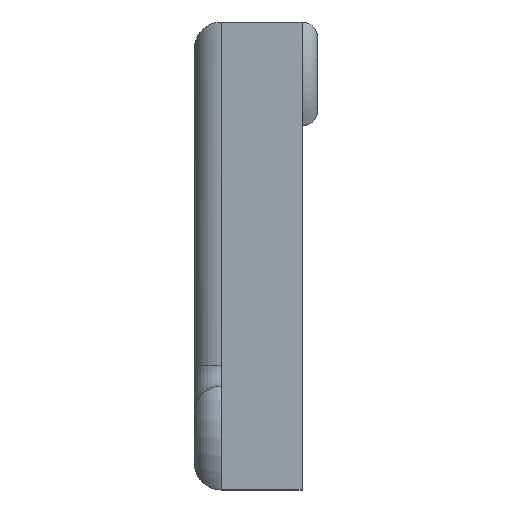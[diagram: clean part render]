
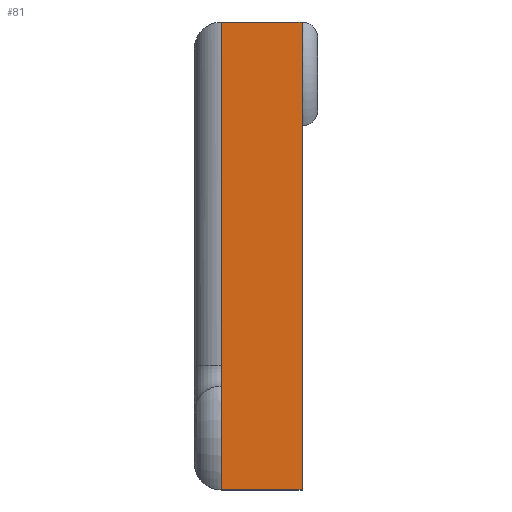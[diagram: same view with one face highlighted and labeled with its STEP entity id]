
A CAD part, left-side view. The second image highlights one B-rep face of the part: STEP entity #81.
In plain terms, the highlighted planar face has unit normal (-1, 0, 0).
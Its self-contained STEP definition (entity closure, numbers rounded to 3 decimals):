
#81 = ADVANCED_FACE ( 'NONE', ( #676 ), #494, .F. ) ;
#85 = VERTEX_POINT ( 'NONE', #296 ) ;
#162 = EDGE_CURVE ( 'NONE', #85, #1431, #483, .T. ) ;
#296 = CARTESIAN_POINT ( 'NONE',  ( -35., 3.875, 22.5 ) ) ;
#323 = DIRECTION ( 'NONE',  ( 0., -1., 0. ) ) ;
#328 = CARTESIAN_POINT ( 'NONE',  ( -35., 3.875, -22.5 ) ) ;
#445 = VECTOR ( 'NONE', #323, 1000. ) ;
#483 = LINE ( 'NONE', #1497, #1498 ) ;
#494 = PLANE ( 'NONE',  #718 ) ;
#498 = LINE ( 'NONE', #1845, #445 ) ;
#653 = VECTOR ( 'NONE', #1015, 1000. ) ;
#676 = FACE_OUTER_BOUND ( 'NONE', #1611, .T. ) ;
#718 = AXIS2_PLACEMENT_3D ( 'NONE', #1187, #1851, #1175 ) ;
#719 = VECTOR ( 'NONE', #1763, 1000. ) ;
#833 = DIRECTION ( 'NONE',  ( 0., -1., 0. ) ) ;
#904 = EDGE_CURVE ( 'NONE', #1773, #1431, #1421, .T. ) ;
#1015 = DIRECTION ( 'NONE',  ( 0., 0., 1. ) ) ;
#1039 = ORIENTED_EDGE ( 'NONE', *, *, #1964, .T. ) ;
#1093 = CARTESIAN_POINT ( 'NONE',  ( -35., -3.875, -22.5 ) ) ;
#1157 = VERTEX_POINT ( 'NONE', #1443 ) ;
#1175 = DIRECTION ( 'NONE',  ( 0., 0., -1. ) ) ;
#1187 = CARTESIAN_POINT ( 'NONE',  ( -35., 3.875, -22.5 ) ) ;
#1214 = ORIENTED_EDGE ( 'NONE', *, *, #162, .F. ) ;
#1421 = LINE ( 'NONE', #1093, #719 ) ;
#1431 = VERTEX_POINT ( 'NONE', #1951 ) ;
#1443 = CARTESIAN_POINT ( 'NONE',  ( -35., 3.875, -22.5 ) ) ;
#1497 = CARTESIAN_POINT ( 'NONE',  ( -35., 3.875, 22.5 ) ) ;
#1498 = VECTOR ( 'NONE', #833, 1000. ) ;
#1611 = EDGE_LOOP ( 'NONE', ( #1762, #1214, #2064, #1039 ) ) ;
#1742 = EDGE_CURVE ( 'NONE', #1157, #85, #1803, .T. ) ;
#1762 = ORIENTED_EDGE ( 'NONE', *, *, #904, .T. ) ;
#1763 = DIRECTION ( 'NONE',  ( 0., 0., 1. ) ) ;
#1773 = VERTEX_POINT ( 'NONE', #1969 ) ;
#1803 = LINE ( 'NONE', #328, #653 ) ;
#1845 = CARTESIAN_POINT ( 'NONE',  ( -35., 3.875, -22.5 ) ) ;
#1851 = DIRECTION ( 'NONE',  ( 1., 0., 0. ) ) ;
#1951 = CARTESIAN_POINT ( 'NONE',  ( -35., -3.875, 22.5 ) ) ;
#1964 = EDGE_CURVE ( 'NONE', #1157, #1773, #498, .T. ) ;
#1969 = CARTESIAN_POINT ( 'NONE',  ( -35., -3.875, -22.5 ) ) ;
#2064 = ORIENTED_EDGE ( 'NONE', *, *, #1742, .F. ) ;
